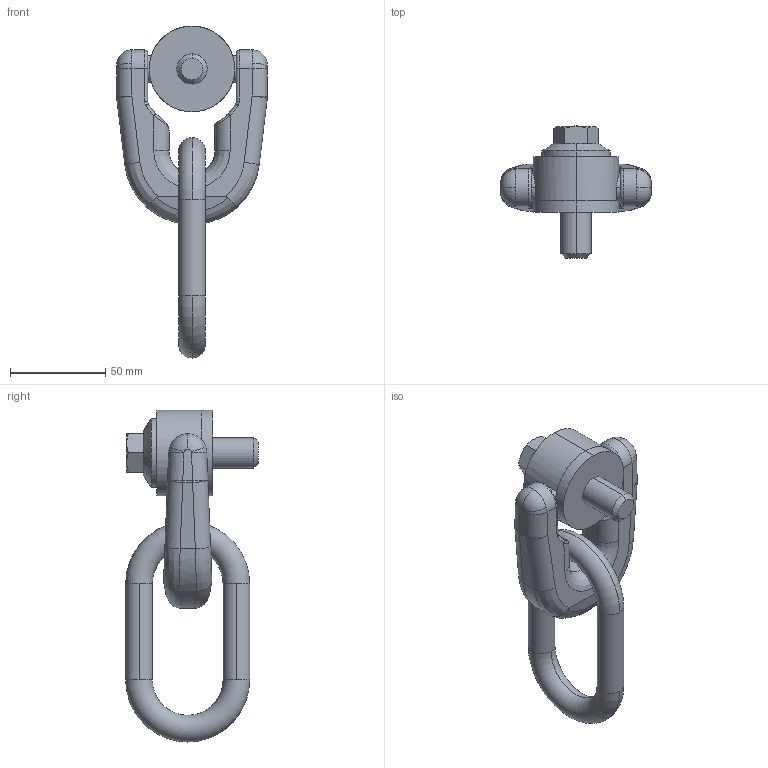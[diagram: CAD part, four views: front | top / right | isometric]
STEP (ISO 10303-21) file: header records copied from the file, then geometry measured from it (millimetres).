
FILE_DESCRIPTION (( 'STEP AP203' ), '1' );
FILE_NAME ('63150.W0258.step', '2013-12-13T11:55:06', ( 'User' ), ( '' ), 'SwSTEP 2.0', 'SolidWorks 2009', '' );
FILE_SCHEMA (( 'CONFIG_CONTROL_DESIGN' ));
Length unit declared in the file: millimetre
Products named in the file (4): Part1_63150.W0258; 63150.W0258; Part2B; Part3_63150.W0258
Assembly tree (3 placements, depth 2):
  63150.W0258
    Part1_63150.W0258
    Part3_63150.W0258
    Part2B
Bounding box: 79 x 69.5 x 174 mm (x, y, z)
Volume: 177978.9 mm3; surface area: 38540 mm2
Topology: 3 solids, 3 shells, 133 faces, 317 edges, 190 vertices
Faces by surface type: cylinder 41, plane 33, bspline 33, torus 12, cone 10, sphere 4
Entity records: 5940 total; most frequent: CARTESIAN_POINT 2688, ORIENTED_EDGE 630, DIRECTION 574, EDGE_CURVE 315, AXIS2_PLACEMENT_3D 233, VERTEX_POINT 190, EDGE_LOOP 139, ADVANCED_FACE 133
